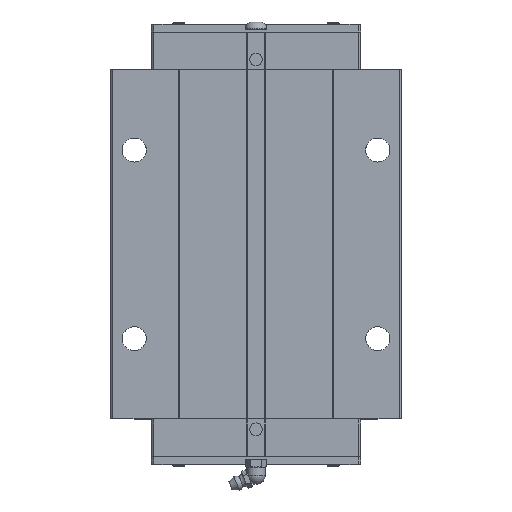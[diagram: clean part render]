
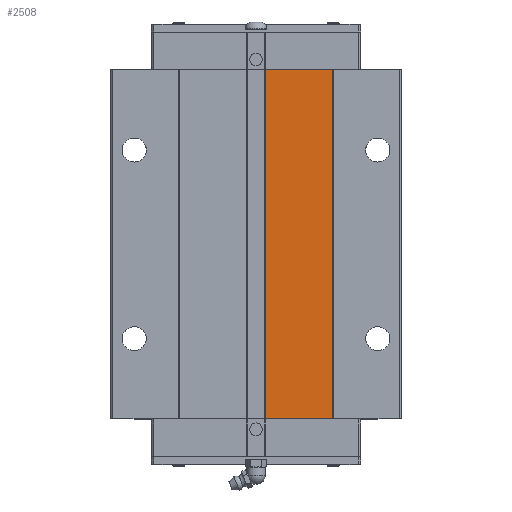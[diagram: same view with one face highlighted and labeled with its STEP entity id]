
A CAD part, top view. The second image highlights one B-rep face of the part: STEP entity #2508.
In plain terms, the highlighted planar face has unit normal (0, 0, 1).
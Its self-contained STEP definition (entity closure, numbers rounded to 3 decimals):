
#2014=VERTEX_POINT('',#5265);
#2324=VERTEX_POINT('',#5622);
#2482=EDGE_CURVE('',#2324,#2014,#5790,.T.);
#2508=ADVANCED_FACE('',(#5819),#5820,.F.);
#2708=EDGE_CURVE('',#4644,#4458,#6040,.T.);
#3260=EDGE_CURVE('',#4644,#2014,#6643,.T.);
#3358=EDGE_CURVE('',#4458,#2324,#6748,.T.);
#4458=VERTEX_POINT('',#7978);
#4644=VERTEX_POINT('',#8182);
#5265=CARTESIAN_POINT('',(5.5,26.5,89.5));
#5622=CARTESIAN_POINT('',(44.75,26.5,89.5));
#5790=LINE('',#9818,#9819);
#5819=FACE_OUTER_BOUND('',#9853,.T.);
#5820=PLANE('',#9854);
#6040=LINE('',#10198,#10199);
#6643=LINE('',#11091,#11092);
#6748=LINE('',#11281,#11282);
#7978=CARTESIAN_POINT('',(44.75,230.1,89.5));
#8182=CARTESIAN_POINT('',(5.5,230.1,89.5));
#9818=CARTESIAN_POINT('',(22.375,26.5,89.5));
#9819=VECTOR('',#14782,1.0);
#9853=EDGE_LOOP('',(#14846,#14847,#14848,#14849));
#9854=AXIS2_PLACEMENT_3D('',#14850,#14851,#14852);
#10198=CARTESIAN_POINT('',(22.375,230.1,89.5));
#10199=VECTOR('',#15086,1.0);
#11091=CARTESIAN_POINT('',(5.5,281.0,89.5));
#11092=VECTOR('',#15688,1.0);
#11281=CARTESIAN_POINT('',(44.75,331.9,89.5));
#11282=VECTOR('',#15782,1.0);
#14782=DIRECTION('',(-1.0,-0.0,-0.0));
#14846=ORIENTED_EDGE('',*,*,#3260,.T.);
#14847=ORIENTED_EDGE('',*,*,#2482,.F.);
#14848=ORIENTED_EDGE('',*,*,#3358,.F.);
#14849=ORIENTED_EDGE('',*,*,#2708,.F.);
#14850=CARTESIAN_POINT('',(44.75,331.9,89.5));
#14851=DIRECTION('',(0.0,0.0,-1.0));
#14852=DIRECTION('',(1.0,0.0,0.0));
#15086=DIRECTION('',(1.0,0.0,0.0));
#15688=DIRECTION('',(0.0,-1.0,0.0));
#15782=DIRECTION('',(0.0,-1.0,0.0));
